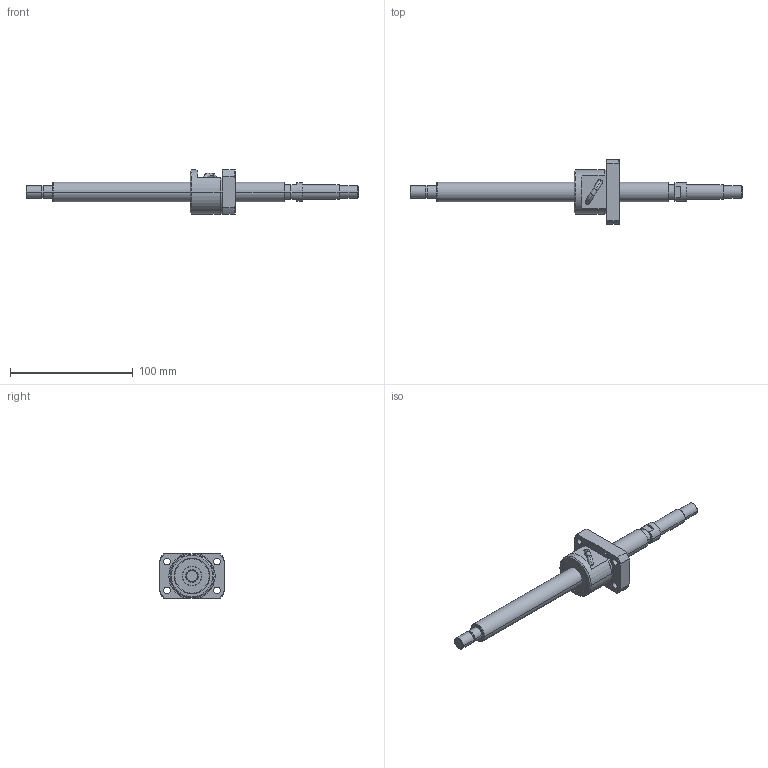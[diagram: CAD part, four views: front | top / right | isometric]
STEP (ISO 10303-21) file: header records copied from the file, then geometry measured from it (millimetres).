
FILE_DESCRIPTION (( 'STEP AP214' ), '1' );
FILE_NAME ('BS1604A-3D.STEP', '2014-03-05T14:50:03', ( '' ), ( '' ), 'SwSTEP 2.0', 'SolidWorks 2012', '' );
FILE_SCHEMA (( 'AUTOMOTIVE_DESIGN' ));
Length unit declared in the file: millimetre
Products named in the file (3): BS1604Aナット; BS1604AŽ²; BS1604A-3D
Assembly tree (2 placements, depth 2):
  BS1604A-3D
    BS1604AŽ²
    BS1604Aナット
Bounding box: 271 x 53 x 36 mm (x, y, z)
Volume: 80259.9 mm3; surface area: 25213.6 mm2
Topology: 2 solids, 2 shells, 158 faces, 404 edges, 259 vertices
Faces by surface type: cylinder 73, plane 42, cone 37, torus 4, bspline 2
Entity records: 6167 total; most frequent: CARTESIAN_POINT 2088, DIRECTION 842, ORIENTED_EDGE 804, EDGE_CURVE 402, AXIS2_PLACEMENT_3D 349, VERTEX_POINT 259, EDGE_LOOP 189, CIRCLE 188
